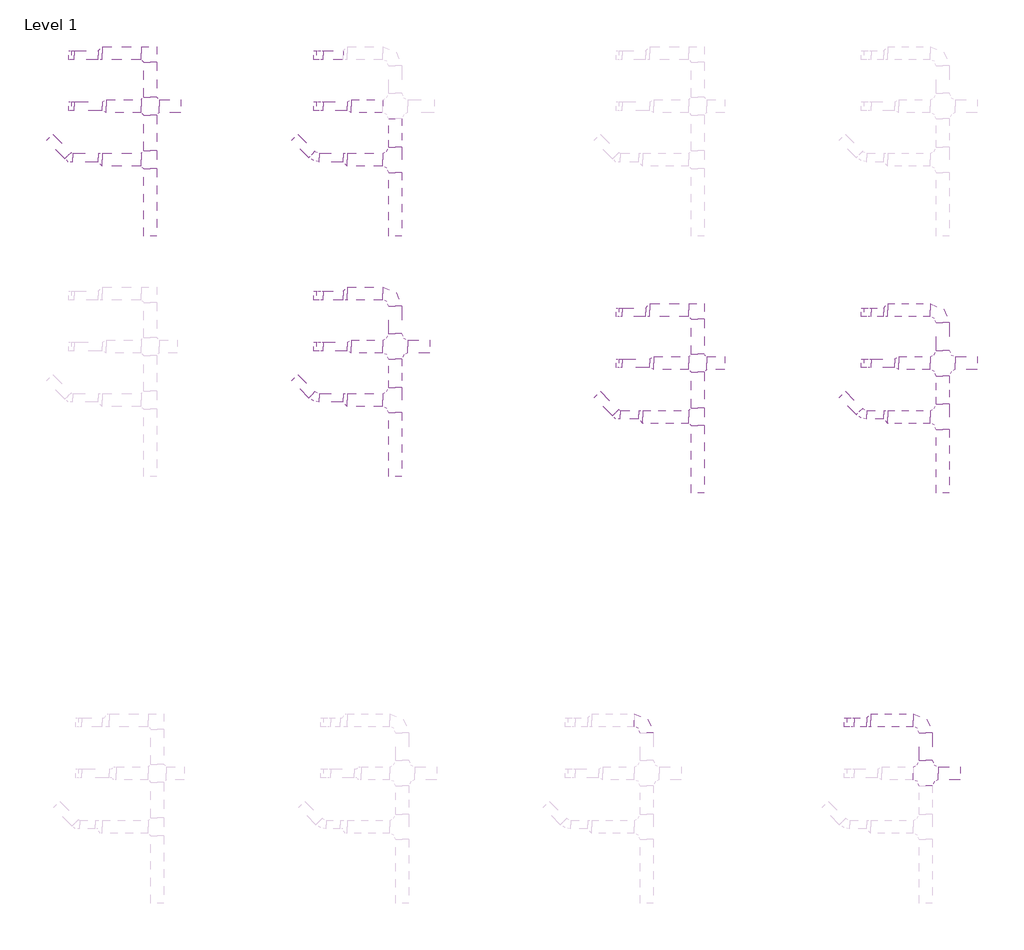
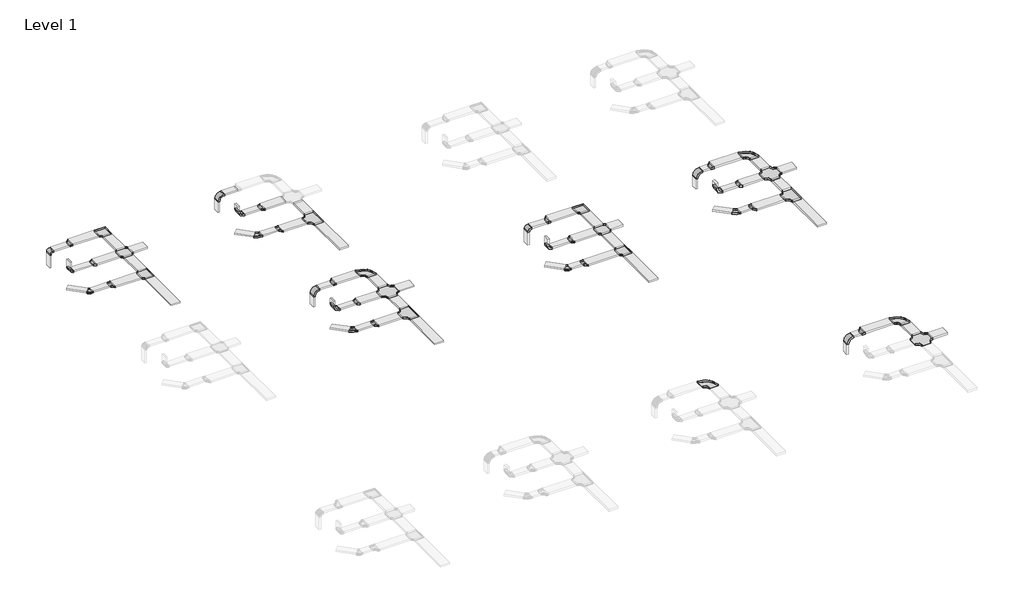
# One storey, part 3 of 9: 67 cable carrier segments, 47 cable carrier fittings.
"""IFC4 building model written with IfcOpenShell, lengths in millimetres."""

from ifc_helpers import new_model, si_unit, frame, origin, place, context, project, spatial, polyline, outline, extrude, transform, mapped, element, save
from components import cable_carrier_fitting_1_mm_2a4d519b, cable_carrier_fitting_1_mm_2e661681, cable_carrier_fitting_1_mm_c912ada3, cable_carrier_fitting_1_mm_805de479, cable_carrier_fitting_1_mm_529289f4, cable_carrier_fitting_1_mm_c1197fce, cable_carrier_fitting_1_mm_2da36d92, cable_carrier_fitting_1_mm_367de262, cable_carrier_fitting_1_mm_1f39f8d9, cable_carrier_fitting_1_mm_a7febe8f, cable_carrier_fitting_1_mm_874ef249, cable_carrier_fitting_1_mm_28e4292d, cable_carrier_fitting_1_mm_fc54f34e, cable_carrier_fitting_1_mm_42b71fda, cable_carrier_fitting_1_mm_2ed8489a, cable_carrier_fitting_1_mm_6bbfc198, cable_carrier_fitting_1_mm_6862339d, cable_carrier_fitting_1_mm_9a7406c8, cable_carrier_fitting_1_mm_9e79036f, cable_carrier_fitting_1_mm_d3f2b815, cable_carrier_fitting_1_mm_2ea6bbca, cable_carrier_fitting_1_mm_5924018d, cable_carrier_fitting_1_mm_d51f4f64, cable_carrier_fitting_1_mm_cfe8fd75, cable_carrier_fitting_1_mm_02684e42, cable_carrier_fitting_1_mm_9e154423, cable_carrier_fitting_1_mm_ffd8b238

model = new_model("IFC4")

# Units and contexts
model_context = context("Model", 3, world=origin())
ifc_project = project(units=[si_unit("LENGTHUNIT", "METRE", prefix="MILLI")], contexts=[model_context])

# Site, building, storey
site = spatial("IfcSite", under=ifc_project)
building = spatial("IfcBuilding", under=site)
storey = spatial("IfcBuildingStorey", under=building, Name="Level 1", Elevation=0.0)

# Cable carrier fittings
placement = place(None, origin())
cable_carrier_fitting_1_mm_shape = cable_carrier_fitting_1_mm_2a4d519b(model_context)
element("IfcCableCarrierFitting", 1, ObjectType="BAKS_Redukcja : 1 mm", at=placement, inside=storey, context=model_context, shape_type="MappedRepresentation", body=[
    mapped(cable_carrier_fitting_1_mm_shape, transform((-20332.8504125, 18572.5015825, 2750.0), x_axis=(1.0, 0.0, 0.0), y_axis=(0.0, 1.0, 0.0), z_axis=(0.0, 0.0, 1.0))),
])
element("IfcCableCarrierFitting", 2, ObjectType="BAKS_Redukcja : 1 mm", at=placement, inside=storey, context=model_context, shape_type="MappedRepresentation", body=[
    mapped(cable_carrier_fitting_1_mm_shape, transform((-14712.8504125, 18572.5015825, 2750.0), x_axis=(1.0, 0.0, 0.0), y_axis=(0.0, 1.0, 0.0), z_axis=(0.0, 0.0, 1.0))),
])
element("IfcCableCarrierFitting", 3, ObjectType="BAKS_Redukcja : 1 mm", at=placement, inside=storey, context=model_context, shape_type="MappedRepresentation", body=[
    mapped(cable_carrier_fitting_1_mm_shape, transform((-14712.8504125, 13056.9815921, 2750.0), x_axis=(1.0, 0.0, 0.0), y_axis=(0.0, 1.0, 0.0), z_axis=(0.0, 0.0, 1.0))),
])
cable_carrier_fitting_1_mm_2_shape = cable_carrier_fitting_1_mm_2e661681(model_context)
element("IfcCableCarrierFitting", 4, ObjectType="BAKS_Redukcja : 1 mm", at=placement, inside=storey, context=model_context, shape_type="MappedRepresentation", body=[
    mapped(cable_carrier_fitting_1_mm_2_shape, transform((-20332.8504125, 19790.4928401, 2750.0), x_axis=(-1.0, 0.0, 0.0), y_axis=(0.0, -1.0, 0.0), z_axis=(0.0, 0.0, 1.0))),
])
element("IfcCableCarrierFitting", 5, ObjectType="BAKS_Redukcja : 1 mm", at=placement, inside=storey, context=model_context, shape_type="MappedRepresentation", body=[
    mapped(cable_carrier_fitting_1_mm_2_shape, transform((-14712.8504125, 14274.9728497, 2750.0), x_axis=(-1.0, 0.0, 0.0), y_axis=(0.0, -1.0, 0.0), z_axis=(0.0, 0.0, 1.0))),
])
cable_carrier_fitting_1_mm_3_shape = cable_carrier_fitting_1_mm_c912ada3(model_context)
element("IfcCableCarrierFitting", 6, ObjectType="BAKS_Redukcja : 1 mm", at=placement, inside=storey, context=model_context, shape_type="MappedRepresentation", body=[
    mapped(cable_carrier_fitting_1_mm_3_shape, transform((-20332.8504125, 17341.8691699, 2750.0), x_axis=(-1.0, 0.0, 0.0), y_axis=(0.0, -1.0, 0.0), z_axis=(0.0, 0.0, 1.0))),
])
element("IfcCableCarrierFitting", 7, ObjectType="BAKS_Redukcja : 1 mm", at=placement, inside=storey, context=model_context, shape_type="MappedRepresentation", body=[
    mapped(cable_carrier_fitting_1_mm_3_shape, transform((-14712.8504125, 17341.8691699, 2750.0), x_axis=(-1.0, 0.0, 0.0), y_axis=(0.0, -1.0, 0.0), z_axis=(0.0, 0.0, 1.0))),
])
element("IfcCableCarrierFitting", 8, ObjectType="BAKS_Redukcja : 1 mm", at=placement, inside=storey, context=model_context, shape_type="MappedRepresentation", body=[
    mapped(cable_carrier_fitting_1_mm_3_shape, transform((-14712.8504125, 11826.3491795, 2750.0), x_axis=(-1.0, 0.0, 0.0), y_axis=(0.0, -1.0, 0.0), z_axis=(0.0, 0.0, 1.0))),
])
cable_carrier_fitting_1_mm_4_shape = cable_carrier_fitting_1_mm_805de479(model_context)
element("IfcCableCarrierFitting", 9, ObjectType="BAKS_Redukcja : 1 mm", at=placement, inside=storey, context=model_context, shape_type="MappedRepresentation", body=[
    mapped(cable_carrier_fitting_1_mm_4_shape, transform((-7772.5541593, 12672.5015825, 2750.0), x_axis=(1.0, 0.0, 0.0), y_axis=(0.0, 1.0, 0.0), z_axis=(0.0, 0.0, 1.0))),
])
element("IfcCableCarrierFitting", 10, ObjectType="BAKS_Redukcja : 1 mm", at=placement, inside=storey, context=model_context, shape_type="MappedRepresentation", body=[
    mapped(cable_carrier_fitting_1_mm_4_shape, transform((-2152.5541593, 12672.5015825, 2750.0), x_axis=(1.0, 0.0, 0.0), y_axis=(0.0, 1.0, 0.0), z_axis=(0.0, 0.0, 1.0))),
])
cable_carrier_fitting_1_mm_5_shape = cable_carrier_fitting_1_mm_529289f4(model_context)
element("IfcCableCarrierFitting", 11, ObjectType="BAKS_Redukcja : 1 mm", at=placement, inside=storey, context=model_context, shape_type="MappedRepresentation", body=[
    mapped(cable_carrier_fitting_1_mm_5_shape, transform((-7772.5541593, 13890.4928401, 2750.0), x_axis=(-1.0, 0.0, 0.0), y_axis=(0.0, -1.0, 0.0), z_axis=(0.0, 0.0, 1.0))),
])
element("IfcCableCarrierFitting", 12, ObjectType="BAKS_Redukcja : 1 mm", at=placement, inside=storey, context=model_context, shape_type="MappedRepresentation", body=[
    mapped(cable_carrier_fitting_1_mm_5_shape, transform((-2312.5541593, 13890.4928401, 2750.0), x_axis=(-1.0, 0.0, 0.0), y_axis=(0.0, -1.0, 0.0), z_axis=(0.0, 0.0, 1.0))),
])
cable_carrier_fitting_1_mm_6_shape = cable_carrier_fitting_1_mm_c1197fce(model_context)
element("IfcCableCarrierFitting", 13, ObjectType="BAKS_Redukcja : 1 mm", at=placement, inside=storey, context=model_context, shape_type="MappedRepresentation", body=[
    mapped(cable_carrier_fitting_1_mm_6_shape, transform((-7932.5541593, 11441.8691699, 2750.0), x_axis=(-1.0, 0.0, 0.0), y_axis=(0.0, -1.0, 0.0), z_axis=(0.0, 0.0, 1.0))),
])
element("IfcCableCarrierFitting", 14, ObjectType="BAKS_Redukcja : 1 mm", at=placement, inside=storey, context=model_context, shape_type="MappedRepresentation", body=[
    mapped(cable_carrier_fitting_1_mm_6_shape, transform((-2312.5541593, 11441.8691699, 2750.0), x_axis=(-1.0, 0.0, 0.0), y_axis=(0.0, -1.0, 0.0), z_axis=(0.0, 0.0, 1.0))),
])
cable_carrier_fitting_1_mm_7_shape = cable_carrier_fitting_1_mm_2da36d92(model_context)
element("IfcCableCarrierFitting", 15, ObjectType="BAKS_Czwórnik_koryta (R140) : 1 mm", at=placement, inside=storey, context=model_context, shape_type="MappedRepresentation", body=[
    mapped(cable_carrier_fitting_1_mm_7_shape, transform((-13612.8504125, 13056.9815921, 2750.0), x_axis=(0.0, 1.0, 0.0), y_axis=(-1.0, 0.0, 0.0), z_axis=(0.0, 0.0, 1.0))),
])
cable_carrier_fitting_1_mm_8_shape = cable_carrier_fitting_1_mm_367de262(model_context)
element("IfcCableCarrierFitting", 16, ObjectType="BAKS_Czwórnik_koryta (R140) : 1 mm", at=placement, inside=storey, context=model_context, shape_type="MappedRepresentation", body=[
    mapped(cable_carrier_fitting_1_mm_8_shape, transform((-1052.5541593, 12672.5015825, 2750.0), x_axis=(0.0, 1.0, 0.0), y_axis=(-1.0, 0.0, 0.0), z_axis=(0.0, 0.0, 1.0))),
])
cable_carrier_fitting_1_mm_9_shape = cable_carrier_fitting_1_mm_1f39f8d9(model_context)
element("IfcCableCarrierFitting", 17, ObjectType="BAKS_Trójnik_koryta (R140) : 1 mm", at=placement, inside=storey, context=model_context, shape_type="MappedRepresentation", body=[
    mapped(cable_carrier_fitting_1_mm_9_shape, transform((-13612.8504125, 17341.8691699, 2750.0), x_axis=(0.0, -1.0, 0.0), y_axis=(1.0, 0.0, 0.0), z_axis=(0.0, 0.0, 1.0))),
])
element("IfcCableCarrierFitting", 18, ObjectType="BAKS_Trójnik_koryta (R140) : 1 mm", at=placement, inside=storey, context=model_context, shape_type="MappedRepresentation", body=[
    mapped(cable_carrier_fitting_1_mm_9_shape, transform((-13612.8504125, 11826.3491795, 2750.0), x_axis=(0.0, -1.0, 0.0), y_axis=(1.0, 0.0, 0.0), z_axis=(0.0, 0.0, 1.0))),
])
cable_carrier_fitting_1_mm_10_shape = cable_carrier_fitting_1_mm_a7febe8f(model_context)
element("IfcCableCarrierFitting", 19, ObjectType="BAKS_Trójnik_koryta (R140) : 1 mm", at=placement, inside=storey, context=model_context, shape_type="MappedRepresentation", body=[
    mapped(cable_carrier_fitting_1_mm_10_shape, transform((-1052.5541593, 11441.8691699, 2750.0), x_axis=(0.0, -1.0, 0.0), y_axis=(1.0, 0.0, 0.0), z_axis=(0.0, 0.0, 1.0))),
])
cable_carrier_fitting_1_mm_11_shape = cable_carrier_fitting_1_mm_874ef249(model_context)
element("IfcCableCarrierFitting", 20, ObjectType="BAKS_Kolano_koryta : 1 mm", at=placement, inside=storey, context=model_context, shape_type="MappedRepresentation", body=[
    mapped(cable_carrier_fitting_1_mm_11_shape, transform((-21072.8504125, 17391.8691699, 2750.0), x_axis=(0.7071067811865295, -0.7071067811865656, 0.0), y_axis=(0.7071067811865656, 0.7071067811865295, 0.0), z_axis=(0.0, 0.0, 1.0))),
])
cable_carrier_fitting_1_mm_12_shape = cable_carrier_fitting_1_mm_28e4292d(model_context)
element("IfcCableCarrierFitting", 21, ObjectType="BAKS_Kolano_koryta : 1 mm", at=placement, inside=storey, context=model_context, shape_type="MappedRepresentation", body=[
    mapped(cable_carrier_fitting_1_mm_12_shape, transform((-19232.8504125, 19790.4928401, 2750.0), x_axis=(0.0, 1.0, 0.0), y_axis=(-1.0, 0.0, 0.0), z_axis=(0.0, 0.0, 1.0))),
])
cable_carrier_fitting_1_mm_13_shape = cable_carrier_fitting_1_mm_fc54f34e(model_context)
element("IfcCableCarrierFitting", 22, ObjectType="BAKS_Kolano_koryta : 1 mm", at=placement, inside=storey, context=model_context, shape_type="MappedRepresentation", body=[
    mapped(cable_carrier_fitting_1_mm_13_shape, transform((-8512.5541593, 11491.8691699, 2750.0), x_axis=(0.707106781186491, -0.7071067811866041, 0.0), y_axis=(0.7071067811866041, 0.707106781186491, 0.0), z_axis=(0.0, 0.0, 1.0))),
])
cable_carrier_fitting_1_mm_14_shape = cable_carrier_fitting_1_mm_42b71fda(model_context)
element("IfcCableCarrierFitting", 23, ObjectType="BAKS_Kolano_koryta : 1 mm", at=placement, inside=storey, context=model_context, shape_type="MappedRepresentation", body=[
    mapped(cable_carrier_fitting_1_mm_14_shape, transform((-6672.5541593, 13890.4928401, 2750.0), x_axis=(0.0, 1.0, 0.0), y_axis=(-1.0, 0.0, 0.0), z_axis=(0.0, 0.0, 1.0))),
])
cable_carrier_fitting_1_mm_15_shape = cable_carrier_fitting_1_mm_2ed8489a(model_context)
element("IfcCableCarrierFitting", 24, ObjectType="BAKS_Kolano_koryta (R140) : 1 mm", at=placement, inside=storey, context=model_context, shape_type="MappedRepresentation", body=[
    mapped(cable_carrier_fitting_1_mm_15_shape, transform((-15452.8504125, 17391.8691699, 2750.0), x_axis=(0.7071067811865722, -0.7071067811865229, 0.0), y_axis=(0.7071067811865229, 0.7071067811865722, 0.0), z_axis=(0.0, 0.0, 1.0))),
])
element("IfcCableCarrierFitting", 25, ObjectType="BAKS_Kolano_koryta (R140) : 1 mm", at=placement, inside=storey, context=model_context, shape_type="MappedRepresentation", body=[
    mapped(cable_carrier_fitting_1_mm_15_shape, transform((-15452.8504125, 11876.3491795, 2750.0), x_axis=(0.7071067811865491, -0.7071067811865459, 0.0), y_axis=(0.7071067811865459, 0.7071067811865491, 0.0), z_axis=(0.0, 0.0, 1.0))),
])
cable_carrier_fitting_1_mm_16_shape = cable_carrier_fitting_1_mm_6bbfc198(model_context)
element("IfcCableCarrierFitting", 26, ObjectType="BAKS_Kolano_koryta (R140) : 1 mm", at=placement, inside=storey, context=model_context, shape_type="MappedRepresentation", body=[
    mapped(cable_carrier_fitting_1_mm_16_shape, transform((-13612.8504125, 14274.9728497, 2750.0), x_axis=(0.0, 1.0, 0.0), y_axis=(-1.0, 0.0, 0.0), z_axis=(0.0, 0.0, 1.0))),
])
cable_carrier_fitting_1_mm_17_shape = cable_carrier_fitting_1_mm_6862339d(model_context)
element("IfcCableCarrierFitting", 27, ObjectType="BAKS_Kolano_koryta (R140) : 1 mm", at=placement, inside=storey, context=model_context, shape_type="MappedRepresentation", body=[
    mapped(cable_carrier_fitting_1_mm_17_shape, transform((-2892.5541593, 11491.8691699, 2750.0), x_axis=(0.7071067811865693, -0.7071067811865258, 0.0), y_axis=(0.7071067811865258, 0.7071067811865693, 0.0), z_axis=(0.0, 0.0, 1.0))),
])
cable_carrier_fitting_1_mm_18_shape = cable_carrier_fitting_1_mm_9a7406c8(model_context)
element("IfcCableCarrierFitting", 28, ObjectType="BAKS_Kolano_koryta (R140) : 1 mm", at=placement, inside=storey, context=model_context, shape_type="MappedRepresentation", body=[
    mapped(cable_carrier_fitting_1_mm_18_shape, transform((-1052.5541593, 13890.4928401, 2750.0), x_axis=(0.0, 1.0, 0.0), y_axis=(-1.0, 0.0, 0.0), z_axis=(0.0, 0.0, 1.0))),
])
cable_carrier_fitting_1_mm_19_shape = cable_carrier_fitting_1_mm_9e79036f(model_context)
element("IfcCableCarrierFitting", 29, ObjectType="BAKS_Czwórnik_koryta : 1 mm", at=placement, inside=storey, context=model_context, shape_type="MappedRepresentation", body=[
    mapped(cable_carrier_fitting_1_mm_19_shape, transform((-19232.8504125, 18572.5015825, 2750.0), x_axis=(0.0, 1.0, 0.0), y_axis=(-1.0, 0.0, 0.0), z_axis=(0.0, 0.0, 1.0))),
])
cable_carrier_fitting_1_mm_20_shape = cable_carrier_fitting_1_mm_d3f2b815(model_context)
element("IfcCableCarrierFitting", 30, ObjectType="BAKS_Czwórnik_koryta : 1 mm", at=placement, inside=storey, context=model_context, shape_type="MappedRepresentation", body=[
    mapped(cable_carrier_fitting_1_mm_20_shape, transform((-6672.5541593, 12672.5015825, 2750.0), x_axis=(0.0, 1.0, 0.0), y_axis=(-1.0, 0.0, 0.0), z_axis=(0.0, 0.0, 1.0))),
])
cable_carrier_fitting_1_mm_21_shape = cable_carrier_fitting_1_mm_2ea6bbca(model_context)
element("IfcCableCarrierFitting", 31, ObjectType="BAKS_Trójnik_koryta : 1 mm", at=placement, inside=storey, context=model_context, shape_type="MappedRepresentation", body=[
    mapped(cable_carrier_fitting_1_mm_21_shape, transform((-19232.8504125, 17341.8691699, 2750.0), x_axis=(0.0, -1.0, 0.0), y_axis=(1.0, 0.0, 0.0), z_axis=(0.0, 0.0, 1.0))),
])
cable_carrier_fitting_1_mm_22_shape = cable_carrier_fitting_1_mm_5924018d(model_context)
element("IfcCableCarrierFitting", 32, ObjectType="BAKS_Trójnik_koryta : 1 mm", at=placement, inside=storey, context=model_context, shape_type="MappedRepresentation", body=[
    mapped(cable_carrier_fitting_1_mm_22_shape, transform((-6672.5541593, 11441.8691699, 2750.0), x_axis=(0.0, -1.0, 0.0), y_axis=(1.0, 0.0, 0.0), z_axis=(0.0, 0.0, 1.0))),
])
cable_carrier_fitting_1_mm_23_shape = cable_carrier_fitting_1_mm_d51f4f64(model_context)
element("IfcCableCarrierFitting", 33, ObjectType="BAKS_Łuk_koryta_pionowy (R50)z : 1 mm", at=placement, inside=storey, context=model_context, shape_type="MappedRepresentation", body=[
    mapped(cable_carrier_fitting_1_mm_23_shape, transform((-21072.8504125, 19740.4928401, 2750.0), x_axis=(0.0, 0.0, 1.0), y_axis=(1.0, 0.0, 0.0), z_axis=(0.0, 1.0, 0.0))),
])
element("IfcCableCarrierFitting", 34, ObjectType="BAKS_Łuk_koryta_pionowy (R50)w : 1 mm", at=placement, inside=storey, context=model_context, shape_type="MappedRepresentation", body=[
    mapped(cable_carrier_fitting_1_mm_23_shape, transform((-21072.8504125, 18572.5015825, 2750.0), x_axis=(0.0, 0.0, -1.0), y_axis=(1.0, 0.0, 0.0), z_axis=(0.0, -1.0, 0.0))),
])
cable_carrier_fitting_1_mm_24_shape = cable_carrier_fitting_1_mm_cfe8fd75(model_context)
element("IfcCableCarrierFitting", 35, ObjectType="BAKS_Łuk_koryta_pionowy (R50)z : 1 mm", at=placement, inside=storey, context=model_context, shape_type="MappedRepresentation", body=[
    mapped(cable_carrier_fitting_1_mm_24_shape, transform((-8512.5541593, 13840.4928401, 2750.0), x_axis=(0.0, 0.0, 1.0), y_axis=(1.0, 0.0, 0.0), z_axis=(0.0, 1.0, 0.0))),
])
element("IfcCableCarrierFitting", 36, ObjectType="BAKS_Łuk_koryta_pionowy (R50)w : 1 mm", at=placement, inside=storey, context=model_context, shape_type="MappedRepresentation", body=[
    mapped(cable_carrier_fitting_1_mm_24_shape, transform((-8512.5541593, 12672.5015825, 2750.0), x_axis=(0.0, 0.0, -1.0), y_axis=(1.0, 0.0, 0.0), z_axis=(0.0, -1.0, 0.0))),
])
cable_carrier_fitting_1_mm_25_shape = cable_carrier_fitting_1_mm_02684e42(model_context)
element("IfcCableCarrierFitting", 37, ObjectType="BAKS_Łuk_koryta_pionowy (R140)z : 1 mm", at=placement, inside=storey, context=model_context, shape_type="MappedRepresentation", body=[
    mapped(cable_carrier_fitting_1_mm_25_shape, transform((-2892.5541593, 13840.4928401, 2750.0), x_axis=(0.0, 0.0, 1.0), y_axis=(1.0, 0.0, 0.0), z_axis=(0.0, 1.0, 0.0))),
])
cable_carrier_fitting_1_mm_26_shape = cable_carrier_fitting_1_mm_9e154423(model_context)
element("IfcCableCarrierFitting", 38, ObjectType="BAKS_Łuk_koryta_pionowy (R140)z : 1 mm", at=placement, inside=storey, context=model_context, shape_type="MappedRepresentation", body=[
    mapped(cable_carrier_fitting_1_mm_26_shape, transform((-15452.8504125, 19740.4928401, 2750.0), x_axis=(0.0, 0.0, 1.0), y_axis=(1.0, 0.0, 0.0), z_axis=(0.0, 1.0, 0.0))),
])
element("IfcCableCarrierFitting", 39, ObjectType="BAKS_Łuk_koryta_pionowy (R140)z : 1 mm", at=placement, inside=storey, context=model_context, shape_type="MappedRepresentation", body=[
    mapped(cable_carrier_fitting_1_mm_26_shape, transform((-15452.8504125, 14224.9728497, 2750.0), x_axis=(0.0, 0.0, 1.0), y_axis=(1.0, 0.0, 0.0), z_axis=(0.0, 1.0, 0.0))),
])
element("IfcCableCarrierFitting", 40, ObjectType="BAKS_Łuk_koryta_pionowy (R140)w : 1 mm", at=placement, inside=storey, context=model_context, shape_type="MappedRepresentation", body=[
    mapped(cable_carrier_fitting_1_mm_25_shape, transform((-2892.5541593, 12672.5015825, 2750.0), x_axis=(0.0, 0.0, -1.0), y_axis=(1.0, 0.0, 0.0), z_axis=(0.0, -1.0, 0.0))),
])
element("IfcCableCarrierFitting", 41, ObjectType="BAKS_Łuk_koryta_pionowy (R140)w : 1 mm", at=placement, inside=storey, context=model_context, shape_type="MappedRepresentation", body=[
    mapped(cable_carrier_fitting_1_mm_26_shape, transform((-15452.8504125, 18572.5015825, 2750.0), x_axis=(0.0, 0.0, -1.0), y_axis=(1.0, 0.0, 0.0), z_axis=(0.0, -1.0, 0.0))),
])
element("IfcCableCarrierFitting", 42, ObjectType="BAKS_Łuk_koryta_pionowy (R140)w : 1 mm", at=placement, inside=storey, context=model_context, shape_type="MappedRepresentation", body=[
    mapped(cable_carrier_fitting_1_mm_26_shape, transform((-15452.8504125, 13056.9815921, 2750.0), x_axis=(0.0, 0.0, -1.0), y_axis=(1.0, 0.0, 0.0), z_axis=(0.0, -1.0, 0.0))),
])
element("IfcCableCarrierFitting", 43, ObjectType="BAKS_Redukcja E90 : 1.5 mm", at=placement, inside=storey, context=model_context, shape_type="MappedRepresentation", body=[
    mapped(cable_carrier_fitting_1_mm_5_shape, transform((-2702.5459295, 4480.7173994, 2750.0), x_axis=(-1.0, 0.0, 0.0), y_axis=(0.0, -1.0, 0.0), z_axis=(0.0, 0.0, 1.0))),
])
cable_carrier_fitting_1_mm_27_shape = cable_carrier_fitting_1_mm_ffd8b238(model_context)
element("IfcCableCarrierFitting", 44, ObjectType="BAKS_Kolano_koryta E90 (R140) : 1.5 mm", at=placement, inside=storey, context=model_context, shape_type="MappedRepresentation", body=[
    mapped(cable_carrier_fitting_1_mm_27_shape, transform((-1442.5459295, 4480.7173994, 2750.0), x_axis=(0.0, 1.0, 0.0), y_axis=(-1.0, 0.0, 0.0), z_axis=(0.0, 0.0, 1.0))),
])
element("IfcCableCarrierFitting", 45, ObjectType="BAKS_Kolano_koryta E90 (R140) : 1.5 mm", at=placement, inside=storey, context=model_context, shape_type="MappedRepresentation", body=[
    mapped(cable_carrier_fitting_1_mm_27_shape, transform((-7842.5459295, 4480.7173994, 2750.0), x_axis=(0.0, 1.0, 0.0), y_axis=(-1.0, 0.0, 0.0), z_axis=(0.0, 0.0, 1.0))),
])
element("IfcCableCarrierFitting", 46, ObjectType="BAKS_Czwórnik_koryta E90 (R140) : 1.5 mm", at=placement, inside=storey, context=model_context, shape_type="MappedRepresentation", body=[
    mapped(cable_carrier_fitting_1_mm_8_shape, transform((-1442.5459295, 3262.7261418, 2750.0), x_axis=(0.0, 1.0, 0.0), y_axis=(-1.0, 0.0, 0.0), z_axis=(0.0, 0.0, 1.0))),
])
element("IfcCableCarrierFitting", 47, ObjectType="BAKS_Łuk_koryta_pionowy E90 (R140)z : 1.5 mm", at=placement, inside=storey, context=model_context, shape_type="MappedRepresentation", body=[
    mapped(cable_carrier_fitting_1_mm_25_shape, transform((-3282.5459295, 4430.7173994, 2750.0), x_axis=(0.0, 0.0, 1.0), y_axis=(1.0, 0.0, 0.0), z_axis=(0.0, 1.0, 0.0))),
])

# Cable carrier segments
element("IfcCableCarrierSegment", 48, ObjectType="BAKS - koryto kablowe H50 (KCL) - ostre", at=placement, inside=storey, context=model_context, shape_type="SweptSolid", body=[
    extrude(outline(polyline([(-19082.8504125, 17546.8691699), (-19382.8504125, 17546.8691699), (-19382.8504125, 18367.5015825), (-19082.8504125, 18367.5015825), (-19082.8504125, 17546.8691699)])), frame((0.0, 0.0, 2725.0), z_axis=(0.0, 0.0, 1.0), x_axis=(1.0, 0.0, 0.0)), (0.0, 0.0, 1.0), 50.0),
])
element("IfcCableCarrierSegment", 49, ObjectType="BAKS - koryto kablowe H50 (KCL) - ostre", at=placement, inside=storey, context=model_context, shape_type="SweptSolid", body=[
    extrude(outline(polyline([(-21097.8504125, 19840.4928401), (-21047.8504125, 19840.4928401), (-21047.8504125, 19640.4928401), (-21097.8504125, 19640.4928401), (-21097.8504125, 19840.4928401)])), frame((0.0, 0.0, 2200.0), z_axis=(0.0, 0.0, 1.0), x_axis=(1.0, 0.0, 0.0)), (0.0, 0.0, 1.0), 450.0),
])
element("IfcCableCarrierSegment", 50, ObjectType="BAKS - koryto kablowe H50 (KCL) - ostre", at=placement, inside=storey, context=model_context, shape_type="SweptSolid", body=[
    extrude(outline(polyline([(-20427.8504125, 19840.4928401), (-20427.8504125, 19640.4928401), (-20972.8504125, 19640.4928401), (-20972.8504125, 19840.4928401), (-20427.8504125, 19840.4928401)])), frame((0.0, 0.0, 2725.0), z_axis=(0.0, 0.0, 1.0), x_axis=(1.0, 0.0, 0.0)), (0.0, 0.0, 1.0), 50.0),
])
element("IfcCableCarrierSegment", 51, ObjectType="BAKS - koryto kablowe H50 (KCL) - ostre", at=placement, inside=storey, context=model_context, shape_type="SweptSolid", body=[
    extrude(outline(polyline([(-19082.8504125, 15590.4928401), (-19382.8504125, 15590.4928401), (-19382.8504125, 17136.8691699), (-19082.8504125, 17136.8691699), (-19082.8504125, 15590.4928401)])), frame((0.0, 0.0, 2725.0), z_axis=(0.0, 0.0, 1.0), x_axis=(1.0, 0.0, 0.0)), (0.0, 0.0, 1.0), 50.0),
])
element("IfcCableCarrierSegment", 52, ObjectType="BAKS - koryto kablowe H50 (KCL) - ostre", at=placement, inside=storey, context=model_context, shape_type="SweptSolid", body=[
    extrude(outline(polyline([(-21047.8504125, 18672.5015825), (-21047.8504125, 18472.5015825), (-21097.8504125, 18472.5015825), (-21097.8504125, 18672.5015825), (-21047.8504125, 18672.5015825)])), frame((0.0, 0.0, 2850.0), z_axis=(0.0, 0.0, 1.0), x_axis=(1.0, 0.0, 0.0)), (0.0, 0.0, 1.0), 250.0),
])
element("IfcCableCarrierSegment", 53, ObjectType="BAKS - koryto kablowe H50 (KCL) - ostre", at=placement, inside=storey, context=model_context, shape_type="SweptSolid", body=[
    extrude(outline(polyline([(-20972.8504125, 18472.5015825), (-20972.8504125, 18672.5015825), (-20332.8504125, 18672.5015825), (-20332.8504125, 18472.5015825), (-20972.8504125, 18472.5015825)])), frame((0.0, 0.0, 2725.0), z_axis=(0.0, 0.0, 1.0), x_axis=(1.0, 0.0, 0.0)), (0.0, 0.0, 1.0), 50.0),
])
element("IfcCableCarrierSegment", 54, ObjectType="BAKS - koryto kablowe H50 (KCL) - ostre", at=placement, inside=storey, context=model_context, shape_type="SweptSolid", body=[
    extrude(outline(polyline([(-21610.2515662, 17787.8489674), (-21468.83021, 17929.2703236), (-21048.2452901, 17508.6854037), (-21189.6666463, 17367.2640475), (-21610.2515662, 17787.8489674)])), frame((0.0, 0.0, 2725.0), z_axis=(0.0, 0.0, 1.0), x_axis=(1.0, 0.0, 0.0)), (0.0, 0.0, 1.0), 50.0),
])
element("IfcCableCarrierSegment", 55, ObjectType="BAKS - koryto kablowe H50 (KCL) - ostre", at=placement, inside=storey, context=model_context, shape_type="SweptSolid", body=[
    extrude(outline(polyline([(-20427.8504125, 17491.8691699), (-20427.8504125, 17291.8691699), (-21007.6473103, 17291.8691699), (-21007.6473103, 17491.8691699), (-20427.8504125, 17491.8691699)])), frame((0.0, 0.0, 2725.0), z_axis=(0.0, 0.0, 1.0), x_axis=(1.0, 0.0, 0.0)), (0.0, 0.0, 1.0), 50.0),
])
element("IfcCableCarrierSegment", 56, ObjectType="BAKS - koryto kablowe H50 (KCL) - ostre", at=placement, inside=storey, context=model_context, shape_type="SweptSolid", body=[
    extrude(outline(polyline([(-18530.3504125, 18722.5015825), (-18530.3504125, 18422.5015825), (-19027.8504125, 18422.5015825), (-19027.8504125, 18722.5015825), (-18530.3504125, 18722.5015825)])), frame((0.0, 0.0, 2725.0), z_axis=(0.0, 0.0, 1.0), x_axis=(1.0, 0.0, 0.0)), (0.0, 0.0, 1.0), 50.0),
])
element("IfcCableCarrierSegment", 57, ObjectType="BAKS - koryto kablowe H50 (KCL) - ostre", at=placement, inside=storey, context=model_context, shape_type="SweptSolid", body=[
    extrude(outline(polyline([(-19437.8504125, 17491.8691699), (-19437.8504125, 17191.8691699), (-20332.8504125, 17191.8691699), (-20332.8504125, 17491.8691699), (-19437.8504125, 17491.8691699)])), frame((0.0, 0.0, 2725.0), z_axis=(0.0, 0.0, 1.0), x_axis=(1.0, 0.0, 0.0)), (0.0, 0.0, 1.0), 50.0),
])
element("IfcCableCarrierSegment", 58, ObjectType="BAKS - koryto kablowe H50 (KCL) - ostre", at=placement, inside=storey, context=model_context, shape_type="SweptSolid", body=[
    extrude(outline(polyline([(-20237.8504125, 18422.5015825), (-20237.8504125, 18722.5015825), (-19437.8504125, 18722.5015825), (-19437.8504125, 18422.5015825), (-20237.8504125, 18422.5015825)])), frame((0.0, 0.0, 2725.0), z_axis=(0.0, 0.0, 1.0), x_axis=(1.0, 0.0, 0.0)), (0.0, 0.0, 1.0), 50.0),
])
element("IfcCableCarrierSegment", 59, ObjectType="BAKS - koryto kablowe H50 (KCL) - ostre", at=placement, inside=storey, context=model_context, shape_type="SweptSolid", body=[
    extrude(outline(polyline([(-19082.8504125, 18777.5015825), (-19382.8504125, 18777.5015825), (-19382.8504125, 19584.4928401), (-19082.8504125, 19584.4928401), (-19082.8504125, 18777.5015825)])), frame((0.0, 0.0, 2725.0), z_axis=(0.0, 0.0, 1.0), x_axis=(1.0, 0.0, 0.0)), (0.0, 0.0, 1.0), 50.0),
])
element("IfcCableCarrierSegment", 60, ObjectType="BAKS - koryto kablowe H50 (KCL) - ostre", at=placement, inside=storey, context=model_context, shape_type="SweptSolid", body=[
    extrude(outline(polyline([(-19438.8504125, 19940.4928401), (-19438.8504125, 19640.4928401), (-20332.8504125, 19640.4928401), (-20332.8504125, 19940.4928401), (-19438.8504125, 19940.4928401)])), frame((0.0, 0.0, 2725.0), z_axis=(0.0, 0.0, 1.0), x_axis=(1.0, 0.0, 0.0)), (0.0, 0.0, 1.0), 50.0),
])
element("IfcCableCarrierSegment", 61, ObjectType="BAKS - koryto kablowe H50 (KCL) - promieniowe", at=placement, inside=storey, context=model_context, shape_type="SweptSolid", body=[
    extrude(outline(polyline([(-13462.8504125, 17632.8691699), (-13762.8504125, 17632.8691699), (-13762.8504125, 18281.5015825), (-13462.8504125, 18281.5015825), (-13462.8504125, 17632.8691699)])), frame((0.0, 0.0, 2725.0), z_axis=(0.0, 0.0, 1.0), x_axis=(1.0, 0.0, 0.0)), (0.0, 0.0, 1.0), 50.0),
])
element("IfcCableCarrierSegment", 62, ObjectType="BAKS - koryto kablowe H50 (KCL) - promieniowe", at=placement, inside=storey, context=model_context, shape_type="SweptSolid", body=[
    extrude(outline(polyline([(-15427.8504125, 19640.4928401), (-15477.8504125, 19640.4928401), (-15477.8504125, 19840.4928401), (-15427.8504125, 19840.4928401), (-15427.8504125, 19640.4928401)])), frame((0.0, 0.0, 2200.0), z_axis=(0.0, 0.0, 1.0), x_axis=(1.0, 0.0, 0.0)), (0.0, 0.0, 1.0), 360.0),
])
element("IfcCableCarrierSegment", 63, ObjectType="BAKS - koryto kablowe H50 (KCL) - promieniowe", at=placement, inside=storey, context=model_context, shape_type="SweptSolid", body=[
    extrude(outline(polyline([(-14807.8504125, 19840.4928401), (-14807.8504125, 19640.4928401), (-15262.8504125, 19640.4928401), (-15262.8504125, 19840.4928401), (-14807.8504125, 19840.4928401)])), frame((0.0, 0.0, 2725.0), z_axis=(0.0, 0.0, 1.0), x_axis=(1.0, 0.0, 0.0)), (0.0, 0.0, 1.0), 50.0),
])
element("IfcCableCarrierSegment", 64, ObjectType="BAKS - koryto kablowe H50 (KCL) - promieniowe", at=placement, inside=storey, context=model_context, shape_type="SweptSolid", body=[
    extrude(outline(polyline([(-13462.8504125, 15590.4928401), (-13762.8504125, 15590.4928401), (-13762.8504125, 17050.8691699), (-13462.8504125, 17050.8691699), (-13462.8504125, 15590.4928401)])), frame((0.0, 0.0, 2725.0), z_axis=(0.0, 0.0, 1.0), x_axis=(1.0, 0.0, 0.0)), (0.0, 0.0, 1.0), 50.0),
])
element("IfcCableCarrierSegment", 65, ObjectType="BAKS - koryto kablowe H50 (KCL) - promieniowe", at=placement, inside=storey, context=model_context, shape_type="SweptSolid", body=[
    extrude(outline(polyline([(-15477.8504125, 18472.5015825), (-15477.8504125, 18672.5015825), (-15427.8504125, 18672.5015825), (-15427.8504125, 18472.5015825), (-15477.8504125, 18472.5015825)])), frame((0.0, 0.0, 2940.0), z_axis=(0.0, 0.0, 1.0), x_axis=(1.0, 0.0, 0.0)), (0.0, 0.0, 1.0), 160.0),
])
element("IfcCableCarrierSegment", 66, ObjectType="BAKS - koryto kablowe H50 (KCL) - promieniowe", at=placement, inside=storey, context=model_context, shape_type="SweptSolid", body=[
    extrude(outline(polyline([(-15262.8504125, 18472.5015825), (-15262.8504125, 18672.5015825), (-14712.8504125, 18672.5015825), (-14712.8504125, 18472.5015825), (-15262.8504125, 18472.5015825)])), frame((0.0, 0.0, 2725.0), z_axis=(0.0, 0.0, 1.0), x_axis=(1.0, 0.0, 0.0)), (0.0, 0.0, 1.0), 50.0),
])
element("IfcCableCarrierSegment", 67, ObjectType="BAKS - koryto kablowe H50 (KCL) - promieniowe", at=placement, inside=storey, context=model_context, shape_type="SweptSolid", body=[
    extrude(outline(polyline([(-15990.2515662, 17787.8489674), (-15848.83021, 17929.2703236), (-15453.1412137, 17533.5813273), (-15594.5625699, 17392.1599711), (-15990.2515662, 17787.8489674)])), frame((0.0, 0.0, 2725.0), z_axis=(0.0, 0.0, 1.0), x_axis=(1.0, 0.0, 0.0)), (0.0, 0.0, 1.0), 50.0),
])
element("IfcCableCarrierSegment", 68, ObjectType="BAKS - koryto kablowe H50 (KCL) - promieniowe", at=placement, inside=storey, context=model_context, shape_type="SweptSolid", body=[
    extrude(outline(polyline([(-14807.8504125, 17491.8691699), (-14807.8504125, 17291.8691699), (-15352.4391575, 17291.8691699), (-15352.4391575, 17491.8691699), (-14807.8504125, 17491.8691699)])), frame((0.0, 0.0, 2725.0), z_axis=(0.0, 0.0, 1.0), x_axis=(1.0, 0.0, 0.0)), (0.0, 0.0, 1.0), 50.0),
])
element("IfcCableCarrierSegment", 69, ObjectType="BAKS - koryto kablowe H50 (KCL) - promieniowe", at=placement, inside=storey, context=model_context, shape_type="SweptSolid", body=[
    extrude(outline(polyline([(-13903.8504125, 17491.8691699), (-13903.8504125, 17191.8691699), (-14712.8504125, 17191.8691699), (-14712.8504125, 17491.8691699), (-13903.8504125, 17491.8691699)])), frame((0.0, 0.0, 2725.0), z_axis=(0.0, 0.0, 1.0), x_axis=(1.0, 0.0, 0.0)), (0.0, 0.0, 1.0), 50.0),
])
element("IfcCableCarrierSegment", 70, ObjectType="BAKS - koryto kablowe H50 (KCL) - promieniowe", at=placement, inside=storey, context=model_context, shape_type="SweptSolid", body=[
    extrude(outline(polyline([(-14617.8504125, 18422.5015825), (-14617.8504125, 18722.5015825), (-13903.8504125, 18722.5015825), (-13903.8504125, 18422.5015825), (-14617.8504125, 18422.5015825)])), frame((0.0, 0.0, 2725.0), z_axis=(0.0, 0.0, 1.0), x_axis=(1.0, 0.0, 0.0)), (0.0, 0.0, 1.0), 50.0),
])
element("IfcCableCarrierSegment", 71, ObjectType="BAKS - koryto kablowe H50 (KCJ) - promieniowe", at=placement, inside=storey, context=model_context, shape_type="SweptSolid", body=[
    extrude(outline(polyline([(-13462.8504125, 12117.3491795), (-13762.8504125, 12117.3491795), (-13762.8504125, 12765.9815921), (-13462.8504125, 12765.9815921), (-13462.8504125, 12117.3491795)])), frame((0.0, 0.0, 2725.0), z_axis=(0.0, 0.0, 1.0), x_axis=(1.0, 0.0, 0.0)), (0.0, 0.0, 1.0), 50.0),
])
element("IfcCableCarrierSegment", 72, ObjectType="BAKS - koryto kablowe H50 (KCJ) - promieniowe", at=placement, inside=storey, context=model_context, shape_type="SweptSolid", body=[
    extrude(outline(polyline([(-15427.8504125, 14124.9728497), (-15477.8504125, 14124.9728497), (-15477.8504125, 14324.9728497), (-15427.8504125, 14324.9728497), (-15427.8504125, 14124.9728497)])), frame((0.0, 0.0, 2200.0), z_axis=(0.0, 0.0, 1.0), x_axis=(1.0, 0.0, 0.0)), (0.0, 0.0, 1.0), 360.0),
])
element("IfcCableCarrierSegment", 73, ObjectType="BAKS - koryto kablowe H50 (KCJ) - promieniowe", at=placement, inside=storey, context=model_context, shape_type="SweptSolid", body=[
    extrude(outline(polyline([(-14807.8504125, 14324.9728497), (-14807.8504125, 14124.9728497), (-15262.8504125, 14124.9728497), (-15262.8504125, 14324.9728497), (-14807.8504125, 14324.9728497)])), frame((0.0, 0.0, 2725.0), z_axis=(0.0, 0.0, 1.0), x_axis=(1.0, 0.0, 0.0)), (0.0, 0.0, 1.0), 50.0),
])
element("IfcCableCarrierSegment", 74, ObjectType="BAKS - koryto kablowe H50 (KCJ) - promieniowe", at=placement, inside=storey, context=model_context, shape_type="SweptSolid", body=[
    extrude(outline(polyline([(-13462.8504125, 10074.9728497), (-13762.8504125, 10074.9728497), (-13762.8504125, 11535.3491795), (-13462.8504125, 11535.3491795), (-13462.8504125, 10074.9728497)])), frame((0.0, 0.0, 2725.0), z_axis=(0.0, 0.0, 1.0), x_axis=(1.0, 0.0, 0.0)), (0.0, 0.0, 1.0), 50.0),
])
element("IfcCableCarrierSegment", 75, ObjectType="BAKS - koryto kablowe H50 (KCJ) - promieniowe", at=placement, inside=storey, context=model_context, shape_type="SweptSolid", body=[
    extrude(outline(polyline([(-15477.8504125, 12956.9815921), (-15477.8504125, 13156.9815921), (-15427.8504125, 13156.9815921), (-15427.8504125, 12956.9815921), (-15477.8504125, 12956.9815921)])), frame((0.0, 0.0, 2940.0), z_axis=(0.0, 0.0, 1.0), x_axis=(1.0, 0.0, 0.0)), (0.0, 0.0, 1.0), 160.0),
])
element("IfcCableCarrierSegment", 76, ObjectType="BAKS - koryto kablowe H50 (KCJ) - promieniowe", at=placement, inside=storey, context=model_context, shape_type="SweptSolid", body=[
    extrude(outline(polyline([(-15262.8504125, 12956.9815921), (-15262.8504125, 13156.9815921), (-14712.8504125, 13156.9815921), (-14712.8504125, 12956.9815921), (-15262.8504125, 12956.9815921)])), frame((0.0, 0.0, 2725.0), z_axis=(0.0, 0.0, 1.0), x_axis=(1.0, 0.0, 0.0)), (0.0, 0.0, 1.0), 50.0),
])
element("IfcCableCarrierSegment", 77, ObjectType="BAKS - koryto kablowe H50 (KCJ) - promieniowe", at=placement, inside=storey, context=model_context, shape_type="SweptSolid", body=[
    extrude(outline(polyline([(-15990.2515662, 12272.3289769), (-15848.83021, 12413.7503332), (-15453.1412137, 12018.0613369), (-15594.5625699, 11876.6399806), (-15990.2515662, 12272.3289769)])), frame((0.0, 0.0, 2725.0), z_axis=(0.0, 0.0, 1.0), x_axis=(1.0, 0.0, 0.0)), (0.0, 0.0, 1.0), 50.0),
])
element("IfcCableCarrierSegment", 78, ObjectType="BAKS - koryto kablowe H50 (KCJ) - promieniowe", at=placement, inside=storey, context=model_context, shape_type="SweptSolid", body=[
    extrude(outline(polyline([(-14807.8504125, 11976.3491795), (-14807.8504125, 11776.3491795), (-15352.4391575, 11776.3491795), (-15352.4391575, 11976.3491795), (-14807.8504125, 11976.3491795)])), frame((0.0, 0.0, 2725.0), z_axis=(0.0, 0.0, 1.0), x_axis=(1.0, 0.0, 0.0)), (0.0, 0.0, 1.0), 50.0),
])
element("IfcCableCarrierSegment", 79, ObjectType="BAKS - koryto kablowe H50 (KCJ) - promieniowe", at=placement, inside=storey, context=model_context, shape_type="SweptSolid", body=[
    extrude(outline(polyline([(-12817.8504125, 13206.9815921), (-12817.8504125, 12906.9815921), (-13321.8504125, 12906.9815921), (-13321.8504125, 13206.9815921), (-12817.8504125, 13206.9815921)])), frame((0.0, 0.0, 2725.0), z_axis=(0.0, 0.0, 1.0), x_axis=(1.0, 0.0, 0.0)), (0.0, 0.0, 1.0), 50.0),
])
element("IfcCableCarrierSegment", 80, ObjectType="BAKS - koryto kablowe H50 (KCJ) - promieniowe", at=placement, inside=storey, context=model_context, shape_type="SweptSolid", body=[
    extrude(outline(polyline([(-13903.8504125, 11976.3491795), (-13903.8504125, 11676.3491795), (-14712.8504125, 11676.3491795), (-14712.8504125, 11976.3491795), (-13903.8504125, 11976.3491795)])), frame((0.0, 0.0, 2725.0), z_axis=(0.0, 0.0, 1.0), x_axis=(1.0, 0.0, 0.0)), (0.0, 0.0, 1.0), 50.0),
])
element("IfcCableCarrierSegment", 81, ObjectType="BAKS - koryto kablowe H50 (KCJ) - promieniowe", at=placement, inside=storey, context=model_context, shape_type="SweptSolid", body=[
    extrude(outline(polyline([(-14617.8504125, 12906.9815921), (-14617.8504125, 13206.9815921), (-13903.8504125, 13206.9815921), (-13903.8504125, 12906.9815921), (-14617.8504125, 12906.9815921)])), frame((0.0, 0.0, 2725.0), z_axis=(0.0, 0.0, 1.0), x_axis=(1.0, 0.0, 0.0)), (0.0, 0.0, 1.0), 50.0),
])
element("IfcCableCarrierSegment", 82, ObjectType="BAKS - koryto kablowe H50 (KCJ) - promieniowe", at=placement, inside=storey, context=model_context, shape_type="SweptSolid", body=[
    extrude(outline(polyline([(-13462.8504125, 13347.9815921), (-13762.8504125, 13347.9815921), (-13762.8504125, 13983.9728497), (-13462.8504125, 13983.9728497), (-13462.8504125, 13347.9815921)])), frame((0.0, 0.0, 2725.0), z_axis=(0.0, 0.0, 1.0), x_axis=(1.0, 0.0, 0.0)), (0.0, 0.0, 1.0), 50.0),
])
element("IfcCableCarrierSegment", 83, ObjectType="BAKS - koryto kablowe H50 (KCJ) - promieniowe", at=placement, inside=storey, context=model_context, shape_type="SweptSolid", body=[
    extrude(outline(polyline([(-13903.8504125, 14424.9728497), (-13903.8504125, 14124.9728497), (-14712.8504125, 14124.9728497), (-14712.8504125, 14424.9728497), (-13903.8504125, 14424.9728497)])), frame((0.0, 0.0, 2725.0), z_axis=(0.0, 0.0, 1.0), x_axis=(1.0, 0.0, 0.0)), (0.0, 0.0, 1.0), 50.0),
])
element("IfcCableCarrierSegment", 84, ObjectType="BAKS - koryto kablowe H60 (KGJ) - ostre", at=placement, inside=storey, context=model_context, shape_type="SweptSolid", body=[
    extrude(outline(polyline([(-6522.5541593, 11646.8691699), (-6822.5541593, 11646.8691699), (-6822.5541593, 12467.5015825), (-6522.5541593, 12467.5015825), (-6522.5541593, 11646.8691699)])), frame((0.0, 0.0, 2720.0), z_axis=(0.0, 0.0, 1.0), x_axis=(1.0, 0.0, 0.0)), (0.0, 0.0, 1.0), 60.0),
])
element("IfcCableCarrierSegment", 85, ObjectType="BAKS - koryto kablowe H60 (KGJ) - ostre", at=placement, inside=storey, context=model_context, shape_type="SweptSolid", body=[
    extrude(outline(polyline([(-8482.5541593, 13740.4928401), (-8542.5541593, 13740.4928401), (-8542.5541593, 13940.4928401), (-8482.5541593, 13940.4928401), (-8482.5541593, 13740.4928401)])), frame((0.0, 0.0, 2200.0), z_axis=(0.0, 0.0, 1.0), x_axis=(1.0, 0.0, 0.0)), (0.0, 0.0, 1.0), 445.0),
])
element("IfcCableCarrierSegment", 86, ObjectType="BAKS - koryto kablowe H60 (KGJ) - ostre", at=placement, inside=storey, context=model_context, shape_type="SweptSolid", body=[
    extrude(outline(polyline([(-7867.5541593, 13940.4928401), (-7867.5541593, 13740.4928401), (-8407.5541593, 13740.4928401), (-8407.5541593, 13940.4928401), (-7867.5541593, 13940.4928401)])), frame((0.0, 0.0, 2720.0), z_axis=(0.0, 0.0, 1.0), x_axis=(1.0, 0.0, 0.0)), (0.0, 0.0, 1.0), 60.0),
])
element("IfcCableCarrierSegment", 87, ObjectType="BAKS - koryto kablowe H60 (KGJ) - ostre", at=placement, inside=storey, context=model_context, shape_type="SweptSolid", body=[
    extrude(outline(polyline([(-6522.5541593, 9690.4928401), (-6822.5541593, 9690.4928401), (-6822.5541593, 11236.8691699), (-6522.5541593, 11236.8691699), (-6522.5541593, 9690.4928401)])), frame((0.0, 0.0, 2720.0), z_axis=(0.0, 0.0, 1.0), x_axis=(1.0, 0.0, 0.0)), (0.0, 0.0, 1.0), 60.0),
])
element("IfcCableCarrierSegment", 88, ObjectType="BAKS - koryto kablowe H60 (KGJ) - ostre", at=placement, inside=storey, context=model_context, shape_type="SweptSolid", body=[
    extrude(outline(polyline([(-8542.5541593, 12572.5015825), (-8542.5541593, 12772.5015825), (-8482.5541593, 12772.5015825), (-8482.5541593, 12572.5015825), (-8542.5541593, 12572.5015825)])), frame((0.0, 0.0, 2855.0), z_axis=(0.0, 0.0, 1.0), x_axis=(1.0, 0.0, 0.0)), (0.0, 0.0, 1.0), 245.0),
])
element("IfcCableCarrierSegment", 89, ObjectType="BAKS - koryto kablowe H60 (KGJ) - ostre", at=placement, inside=storey, context=model_context, shape_type="SweptSolid", body=[
    extrude(outline(polyline([(-8407.5541593, 12572.5015825), (-8407.5541593, 12772.5015825), (-7772.5541593, 12772.5015825), (-7772.5541593, 12572.5015825), (-8407.5541593, 12572.5015825)])), frame((0.0, 0.0, 2720.0), z_axis=(0.0, 0.0, 1.0), x_axis=(1.0, 0.0, 0.0)), (0.0, 0.0, 1.0), 60.0),
])
element("IfcCableCarrierSegment", 90, ObjectType="BAKS - koryto kablowe H60 (KGJ) - ostre", at=placement, inside=storey, context=model_context, shape_type="SweptSolid", body=[
    extrude(outline(polyline([(-9049.955313, 11887.8489674), (-8908.5339568, 12029.2703236), (-8487.9490369, 11608.6854037), (-8629.3703931, 11467.2640475), (-9049.955313, 11887.8489674)])), frame((0.0, 0.0, 2720.0), z_axis=(0.0, 0.0, 1.0), x_axis=(1.0, 0.0, 0.0)), (0.0, 0.0, 1.0), 60.0),
])
element("IfcCableCarrierSegment", 91, ObjectType="BAKS - koryto kablowe H60 (KGJ) - ostre", at=placement, inside=storey, context=model_context, shape_type="SweptSolid", body=[
    extrude(outline(polyline([(-8027.5541593, 11591.8691699), (-8027.5541593, 11391.8691699), (-8447.3510572, 11391.8691699), (-8447.3510572, 11591.8691699), (-8027.5541593, 11591.8691699)])), frame((0.0, 0.0, 2720.0), z_axis=(0.0, 0.0, 1.0), x_axis=(1.0, 0.0, 0.0)), (0.0, 0.0, 1.0), 60.0),
])
element("IfcCableCarrierSegment", 92, ObjectType="BAKS - koryto kablowe H60 (KGJ) - ostre", at=placement, inside=storey, context=model_context, shape_type="SweptSolid", body=[
    extrude(outline(polyline([(-6050.0541593, 12822.5015825), (-6050.0541593, 12522.5015825), (-6467.5541593, 12522.5015825), (-6467.5541593, 12822.5015825), (-6050.0541593, 12822.5015825)])), frame((0.0, 0.0, 2720.0), z_axis=(0.0, 0.0, 1.0), x_axis=(1.0, 0.0, 0.0)), (0.0, 0.0, 1.0), 60.0),
])
element("IfcCableCarrierSegment", 93, ObjectType="BAKS - koryto kablowe H60 (KGJ) - ostre", at=placement, inside=storey, context=model_context, shape_type="SweptSolid", body=[
    extrude(outline(polyline([(-6877.5541593, 11591.8691699), (-6877.5541593, 11291.8691699), (-7932.5541593, 11291.8691699), (-7932.5541593, 11591.8691699), (-6877.5541593, 11591.8691699)])), frame((0.0, 0.0, 2720.0), z_axis=(0.0, 0.0, 1.0), x_axis=(1.0, 0.0, 0.0)), (0.0, 0.0, 1.0), 60.0),
])
element("IfcCableCarrierSegment", 94, ObjectType="BAKS - koryto kablowe H60 (KGJ) - ostre", at=placement, inside=storey, context=model_context, shape_type="SweptSolid", body=[
    extrude(outline(polyline([(-7677.5541593, 12522.5015825), (-7677.5541593, 12822.5015825), (-6877.5541593, 12822.5015825), (-6877.5541593, 12522.5015825), (-7677.5541593, 12522.5015825)])), frame((0.0, 0.0, 2720.0), z_axis=(0.0, 0.0, 1.0), x_axis=(1.0, 0.0, 0.0)), (0.0, 0.0, 1.0), 60.0),
])
element("IfcCableCarrierSegment", 95, ObjectType="BAKS - koryto kablowe H60 (KGJ) - ostre", at=placement, inside=storey, context=model_context, shape_type="SweptSolid", body=[
    extrude(outline(polyline([(-6522.5541593, 12877.5015825), (-6822.5541593, 12877.5015825), (-6822.5541593, 13684.4928401), (-6522.5541593, 13684.4928401), (-6522.5541593, 12877.5015825)])), frame((0.0, 0.0, 2720.0), z_axis=(0.0, 0.0, 1.0), x_axis=(1.0, 0.0, 0.0)), (0.0, 0.0, 1.0), 60.0),
])
element("IfcCableCarrierSegment", 96, ObjectType="BAKS - koryto kablowe H60 (KGJ) - ostre", at=placement, inside=storey, context=model_context, shape_type="SweptSolid", body=[
    extrude(outline(polyline([(-6878.5541593, 14040.4928401), (-6878.5541593, 13740.4928401), (-7772.5541593, 13740.4928401), (-7772.5541593, 14040.4928401), (-6878.5541593, 14040.4928401)])), frame((0.0, 0.0, 2720.0), z_axis=(0.0, 0.0, 1.0), x_axis=(1.0, 0.0, 0.0)), (0.0, 0.0, 1.0), 60.0),
])
element("IfcCableCarrierSegment", 97, ObjectType="BAKS - koryto kablowe H60 (KGJ) - promieniowe", at=placement, inside=storey, context=model_context, shape_type="SweptSolid", body=[
    extrude(outline(polyline([(-902.5541593, 11732.8691699), (-1202.5541593, 11732.8691699), (-1202.5541593, 12381.5015825), (-902.5541593, 12381.5015825), (-902.5541593, 11732.8691699)])), frame((0.0, 0.0, 2720.0), z_axis=(0.0, 0.0, 1.0), x_axis=(1.0, 0.0, 0.0)), (0.0, 0.0, 1.0), 60.0),
])
element("IfcCableCarrierSegment", 98, ObjectType="BAKS - koryto kablowe H60 (KGJ) - promieniowe", at=placement, inside=storey, context=model_context, shape_type="SweptSolid", body=[
    extrude(outline(polyline([(-2862.5541593, 13740.4928401), (-2922.5541593, 13740.4928401), (-2922.5541593, 13940.4928401), (-2862.5541593, 13940.4928401), (-2862.5541593, 13740.4928401)])), frame((0.0, 0.0, 2200.0), z_axis=(0.0, 0.0, 1.0), x_axis=(1.0, 0.0, 0.0)), (0.0, 0.0, 1.0), 355.0),
])
element("IfcCableCarrierSegment", 99, ObjectType="BAKS - koryto kablowe H60 (KGJ) - promieniowe", at=placement, inside=storey, context=model_context, shape_type="SweptSolid", body=[
    extrude(outline(polyline([(-2407.5541593, 13940.4928401), (-2407.5541593, 13740.4928401), (-2697.5541593, 13740.4928401), (-2697.5541593, 13940.4928401), (-2407.5541593, 13940.4928401)])), frame((0.0, 0.0, 2720.0), z_axis=(0.0, 0.0, 1.0), x_axis=(1.0, 0.0, 0.0)), (0.0, 0.0, 1.0), 60.0),
])
element("IfcCableCarrierSegment", 100, ObjectType="BAKS - koryto kablowe H60 (KGJ) - promieniowe", at=placement, inside=storey, context=model_context, shape_type="SweptSolid", body=[
    extrude(outline(polyline([(-902.5541593, 9690.4928401), (-1202.5541593, 9690.4928401), (-1202.5541593, 11150.8691699), (-902.5541593, 11150.8691699), (-902.5541593, 9690.4928401)])), frame((0.0, 0.0, 2720.0), z_axis=(0.0, 0.0, 1.0), x_axis=(1.0, 0.0, 0.0)), (0.0, 0.0, 1.0), 60.0),
])
element("IfcCableCarrierSegment", 101, ObjectType="BAKS - koryto kablowe H60 (KGJ) - promieniowe", at=placement, inside=storey, context=model_context, shape_type="SweptSolid", body=[
    extrude(outline(polyline([(-2922.5541593, 12572.5015825), (-2922.5541593, 12772.5015825), (-2862.5541593, 12772.5015825), (-2862.5541593, 12572.5015825), (-2922.5541593, 12572.5015825)])), frame((0.0, 0.0, 2945.0), z_axis=(0.0, 0.0, 1.0), x_axis=(1.0, 0.0, 0.0)), (0.0, 0.0, 1.0), 155.0),
])
element("IfcCableCarrierSegment", 102, ObjectType="BAKS - koryto kablowe H60 (KGJ) - promieniowe", at=placement, inside=storey, context=model_context, shape_type="SweptSolid", body=[
    extrude(outline(polyline([(-2697.5541593, 12572.5015825), (-2697.5541593, 12772.5015825), (-2152.5541593, 12772.5015825), (-2152.5541593, 12572.5015825), (-2697.5541593, 12572.5015825)])), frame((0.0, 0.0, 2720.0), z_axis=(0.0, 0.0, 1.0), x_axis=(1.0, 0.0, 0.0)), (0.0, 0.0, 1.0), 60.0),
])
element("IfcCableCarrierSegment", 103, ObjectType="BAKS - koryto kablowe H60 (KGJ) - promieniowe", at=placement, inside=storey, context=model_context, shape_type="SweptSolid", body=[
    extrude(outline(polyline([(-3429.955313, 11887.8489674), (-3288.5339568, 12029.2703236), (-2892.8449605, 11633.5813273), (-3034.2663167, 11492.1599711), (-3429.955313, 11887.8489674)])), frame((0.0, 0.0, 2720.0), z_axis=(0.0, 0.0, 1.0), x_axis=(1.0, 0.0, 0.0)), (0.0, 0.0, 1.0), 60.0),
])
element("IfcCableCarrierSegment", 104, ObjectType="BAKS - koryto kablowe H60 (KGJ) - promieniowe", at=placement, inside=storey, context=model_context, shape_type="SweptSolid", body=[
    extrude(outline(polyline([(-2407.5541593, 11591.8691699), (-2407.5541593, 11391.8691699), (-2792.1429044, 11391.8691699), (-2792.1429044, 11591.8691699), (-2407.5541593, 11591.8691699)])), frame((0.0, 0.0, 2720.0), z_axis=(0.0, 0.0, 1.0), x_axis=(1.0, 0.0, 0.0)), (0.0, 0.0, 1.0), 60.0),
])
element("IfcCableCarrierSegment", 105, ObjectType="BAKS - koryto kablowe H60 (KGJ) - promieniowe", at=placement, inside=storey, context=model_context, shape_type="SweptSolid", body=[
    extrude(outline(polyline([(-257.5541593, 12822.5015825), (-257.5541593, 12522.5015825), (-761.5541593, 12522.5015825), (-761.5541593, 12822.5015825), (-257.5541593, 12822.5015825)])), frame((0.0, 0.0, 2720.0), z_axis=(0.0, 0.0, 1.0), x_axis=(1.0, 0.0, 0.0)), (0.0, 0.0, 1.0), 60.0),
])
element("IfcCableCarrierSegment", 106, ObjectType="BAKS - koryto kablowe H60 (KGJ) - promieniowe", at=placement, inside=storey, context=model_context, shape_type="SweptSolid", body=[
    extrude(outline(polyline([(-1343.5541593, 11591.8691699), (-1343.5541593, 11291.8691699), (-2312.5541593, 11291.8691699), (-2312.5541593, 11591.8691699), (-1343.5541593, 11591.8691699)])), frame((0.0, 0.0, 2720.0), z_axis=(0.0, 0.0, 1.0), x_axis=(1.0, 0.0, 0.0)), (0.0, 0.0, 1.0), 60.0),
])
element("IfcCableCarrierSegment", 107, ObjectType="BAKS - koryto kablowe H60 (KGJ) - promieniowe", at=placement, inside=storey, context=model_context, shape_type="SweptSolid", body=[
    extrude(outline(polyline([(-2057.5541593, 12522.5015825), (-2057.5541593, 12822.5015825), (-1343.5541593, 12822.5015825), (-1343.5541593, 12522.5015825), (-2057.5541593, 12522.5015825)])), frame((0.0, 0.0, 2720.0), z_axis=(0.0, 0.0, 1.0), x_axis=(1.0, 0.0, 0.0)), (0.0, 0.0, 1.0), 60.0),
])
element("IfcCableCarrierSegment", 108, ObjectType="BAKS - koryto kablowe H60 (KGJ) - promieniowe", at=placement, inside=storey, context=model_context, shape_type="SweptSolid", body=[
    extrude(outline(polyline([(-902.5541593, 12963.5015825), (-1202.5541593, 12963.5015825), (-1202.5541593, 13599.4928401), (-902.5541593, 13599.4928401), (-902.5541593, 12963.5015825)])), frame((0.0, 0.0, 2720.0), z_axis=(0.0, 0.0, 1.0), x_axis=(1.0, 0.0, 0.0)), (0.0, 0.0, 1.0), 60.0),
])
element("IfcCableCarrierSegment", 109, ObjectType="BAKS - koryto kablowe H60 (KGJ) - promieniowe", at=placement, inside=storey, context=model_context, shape_type="SweptSolid", body=[
    extrude(outline(polyline([(-1343.5541593, 14040.4928401), (-1343.5541593, 13740.4928401), (-2312.5541593, 13740.4928401), (-2312.5541593, 14040.4928401), (-1343.5541593, 14040.4928401)])), frame((0.0, 0.0, 2720.0), z_axis=(0.0, 0.0, 1.0), x_axis=(1.0, 0.0, 0.0)), (0.0, 0.0, 1.0), 60.0),
])
element("IfcCableCarrierSegment", 110, ObjectType="BAKS - koryto kablowe E90 (KCD) - promieniowe", at=placement, inside=storey, context=model_context, shape_type="SweptSolid", body=[
    extrude(outline(polyline([(-3252.5459295, 4330.7173994), (-3312.5459295, 4330.7173994), (-3312.5459295, 4530.7173994), (-3252.5459295, 4530.7173994), (-3252.5459295, 4330.7173994)])), frame((0.0, 0.0, 2200.0), z_axis=(0.0, 0.0, 1.0), x_axis=(1.0, 0.0, 0.0)), (0.0, 0.0, 1.0), 355.0),
])
element("IfcCableCarrierSegment", 111, ObjectType="BAKS - koryto kablowe E90 (KCD) - promieniowe", at=placement, inside=storey, context=model_context, shape_type="SweptSolid", body=[
    extrude(outline(polyline([(-2797.5459295, 4530.7173994), (-2797.5459295, 4330.7173994), (-3087.5459295, 4330.7173994), (-3087.5459295, 4530.7173994), (-2797.5459295, 4530.7173994)])), frame((0.0, 0.0, 2720.0), z_axis=(0.0, 0.0, 1.0), x_axis=(1.0, 0.0, 0.0)), (0.0, 0.0, 1.0), 60.0),
])
element("IfcCableCarrierSegment", 112, ObjectType="BAKS - koryto kablowe E90 (KCD) - promieniowe", at=placement, inside=storey, context=model_context, shape_type="SweptSolid", body=[
    extrude(outline(polyline([(-647.5459295, 3412.7261418), (-647.5459295, 3112.7261418), (-1151.5459295, 3112.7261418), (-1151.5459295, 3412.7261418), (-647.5459295, 3412.7261418)])), frame((0.0, 0.0, 2720.0), z_axis=(0.0, 0.0, 1.0), x_axis=(1.0, 0.0, 0.0)), (0.0, 0.0, 1.0), 60.0),
])
element("IfcCableCarrierSegment", 113, ObjectType="BAKS - koryto kablowe E90 (KCD) - promieniowe", at=placement, inside=storey, context=model_context, shape_type="SweptSolid", body=[
    extrude(outline(polyline([(-1292.5459295, 3553.7261418), (-1592.5459295, 3553.7261418), (-1592.5459295, 4189.7173994), (-1292.5459295, 4189.7173994), (-1292.5459295, 3553.7261418)])), frame((0.0, 0.0, 2720.0), z_axis=(0.0, 0.0, 1.0), x_axis=(1.0, 0.0, 0.0)), (0.0, 0.0, 1.0), 60.0),
])
element("IfcCableCarrierSegment", 114, ObjectType="BAKS - koryto kablowe E90 (KCD) - promieniowe", at=placement, inside=storey, context=model_context, shape_type="SweptSolid", body=[
    extrude(outline(polyline([(-1733.5459295, 4630.7173994), (-1733.5459295, 4330.7173994), (-2702.5459295, 4330.7173994), (-2702.5459295, 4630.7173994), (-1733.5459295, 4630.7173994)])), frame((0.0, 0.0, 2720.0), z_axis=(0.0, 0.0, 1.0), x_axis=(1.0, 0.0, 0.0)), (0.0, 0.0, 1.0), 60.0),
])

save(model, "model.ifc")
